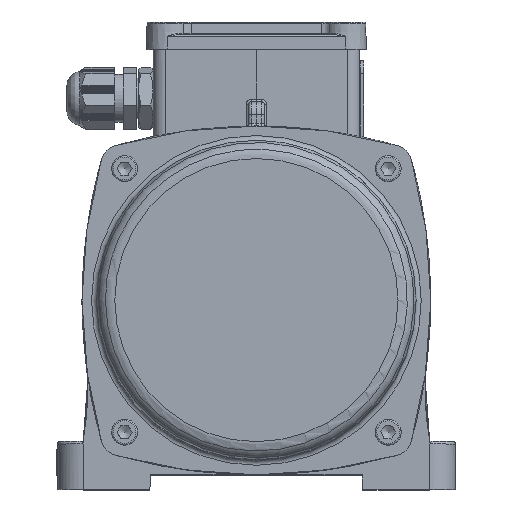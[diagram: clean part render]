
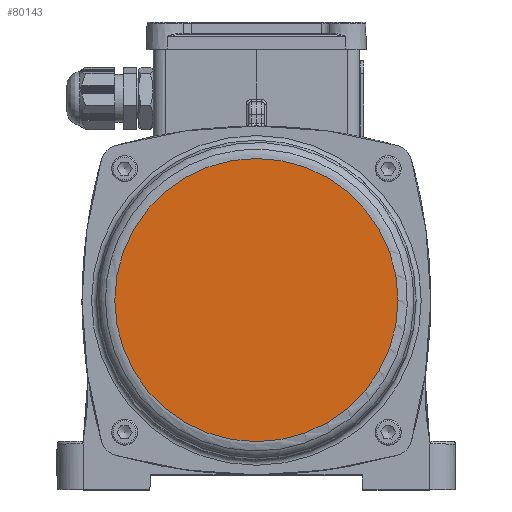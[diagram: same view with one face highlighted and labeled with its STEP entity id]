
A CAD part, top view. The second image highlights one B-rep face of the part: STEP entity #80143.
In plain terms, the highlighted planar face has unit normal (0, 0, 1).
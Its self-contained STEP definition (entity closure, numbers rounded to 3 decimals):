
#6183=PLANE('',#84932);
#8433=FACE_OUTER_BOUND('',#13036,.T.);
#13036=EDGE_LOOP('',(#52572));
#31523=CIRCLE('',#84933,54.8);
#33071=VERTEX_POINT('',#106693);
#40638=EDGE_CURVE('',#33071,#33071,#31523,.T.);
#52572=ORIENTED_EDGE('',*,*,#40638,.F.);
#80143=ADVANCED_FACE('',(#8433),#6183,.T.);
#84932=AXIS2_PLACEMENT_3D('',#106692,#90146,#90147);
#84933=AXIS2_PLACEMENT_3D('',#106694,#90148,#90149);
#90146=DIRECTION('center_axis',(0.,0.,
1.));
#90147=DIRECTION('ref_axis',(-1.,0.,0.));
#90148=DIRECTION('center_axis',(0.,0.,
-1.));
#90149=DIRECTION('ref_axis',(1.,0.,0.));
#106692=CARTESIAN_POINT('Origin',(-2.525,-58.587,145.7));
#106693=CARTESIAN_POINT('',(-57.325,-3.787,145.7));
#106694=CARTESIAN_POINT('Origin',(-2.525,-3.787,145.7));
